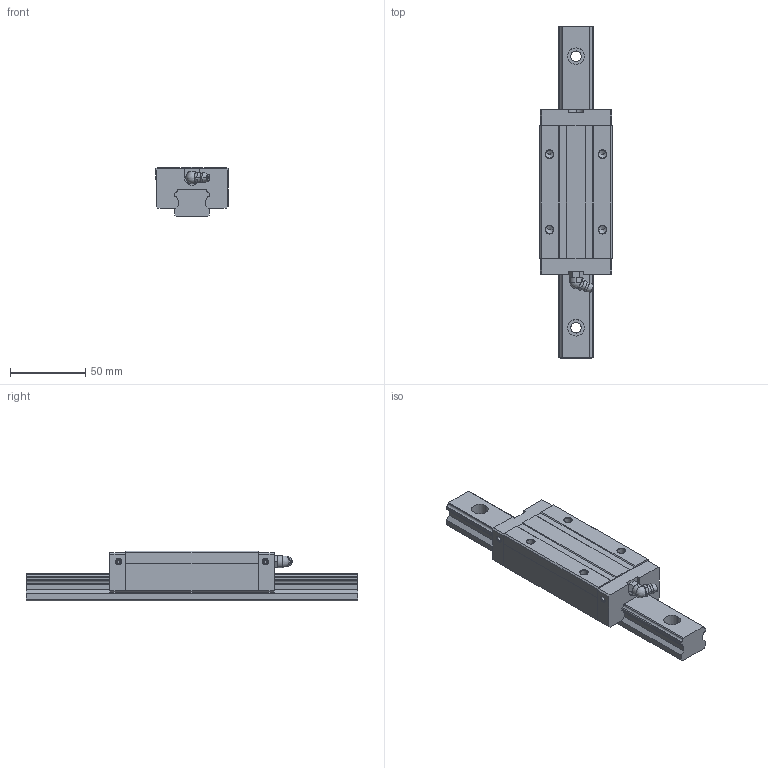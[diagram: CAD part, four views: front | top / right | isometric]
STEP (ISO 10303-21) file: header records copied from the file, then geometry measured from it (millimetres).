
FILE_DESCRIPTION((''),'1');
FILE_NAME(' ',' ',(''),(''),'ACIS Interop R16','Kubotek KeyCreator V6.5.2 (0407)',' ');
FILE_SCHEMA(('CONFIG_CONTROL_DESIGN'));
Length unit declared in the file: millimetre
Products named in the file (3): 1; 2; 3
Bounding box: 48 x 220 x 33 mm (x, y, z)
Volume: 112851.4 mm3; surface area: 41639.4 mm2
Topology: 2 solids, 48 shells, 220 faces, 703 edges, 539 vertices
Faces by surface type: plane 101, cylinder 78, cone 26, torus 10, sphere 3, bspline 2
Entity records: 8062 total; most frequent: CARTESIAN_POINT 1659, DIRECTION 1392, ORIENTED_EDGE 1126, EDGE_CURVE 693, VERTEX_POINT 539, AXIS2_PLACEMENT_3D 500, LINE 392, VECTOR 392
